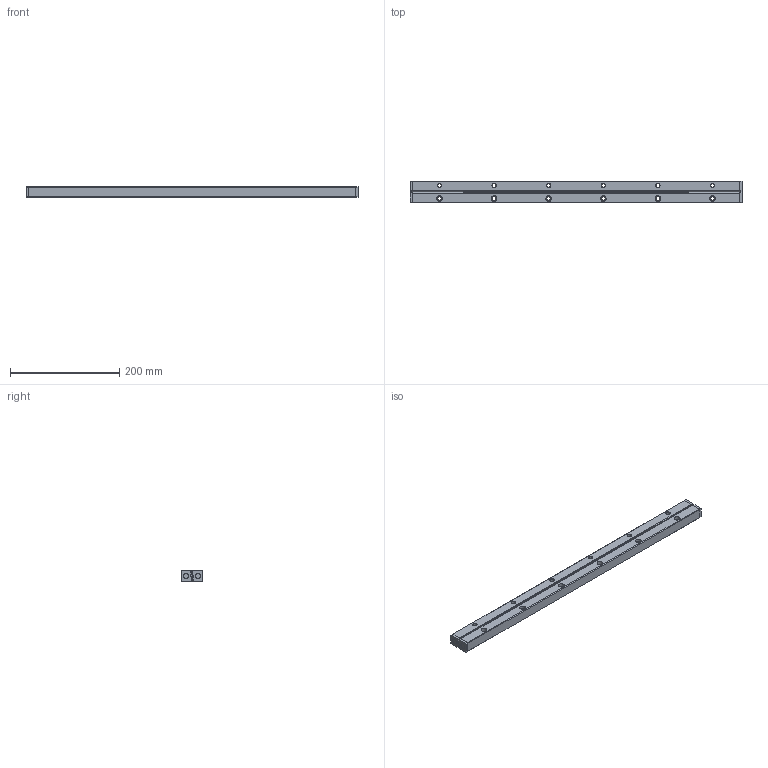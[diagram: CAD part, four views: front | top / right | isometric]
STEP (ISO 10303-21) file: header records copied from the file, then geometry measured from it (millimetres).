
FILE_DESCRIPTION(/* description */ ('Unknown'),/* implementation_level */ '2;1');
FILE_NAME(/* name */ 'VR9-600x30Z',/* time_stamp */ '2025-06-12T09:18:51+08:00',/* author */ ('Unknown'),/* organization */ ('Unknown'),/* preprocessor_version */ 'ST-DEVELOPER v18.102',/* originating_system */ 'Solid Edge',/* authorisation */ 'Unknown');
FILE_SCHEMA (('AUTOMOTIVE_DESIGN {1 0 10303 214 3 1 1}'));
Length unit declared in the file: millimetre
Products named in the file (3): VR9-600x30Z; VR9-600_30Z Roller guide; VR9-600_30Z Roller cage
Assembly tree (3 placements, depth 2):
  VR9-600x30Z
    VR9-600_30Z Roller guide  x2
    VR9-600_30Z Roller cage
Bounding box: 608 x 40 x 20 mm (x, y, z)
Volume: 434974.3 mm3; surface area: 126879.9 mm2
Topology: 3 solids, 3 shells, 478 faces, 1276 edges, 820 vertices
Faces by surface type: plane 336, cone 88, cylinder 54
Full cylindrical faces by diameter (mm): 6.8 x12, 9 x30, 10.5 x12
Entity records: 12588 total; most frequent: CARTESIAN_POINT 2130, DIRECTION 2105, ORIENTED_EDGE 1998, EDGE_CURVE 999, LINE 719, VECTOR 719, VERTEX_POINT 718, AXIS2_PLACEMENT_3D 693
